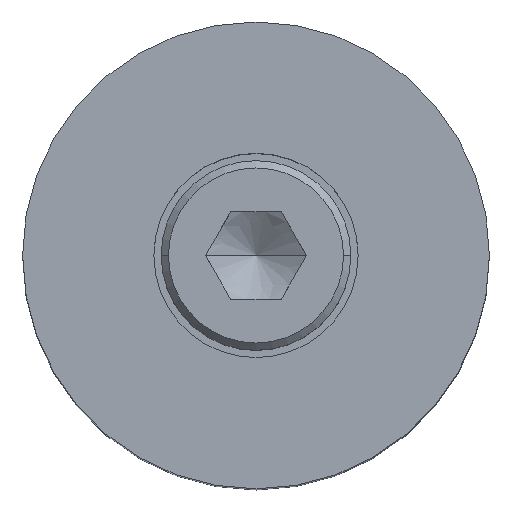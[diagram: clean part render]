
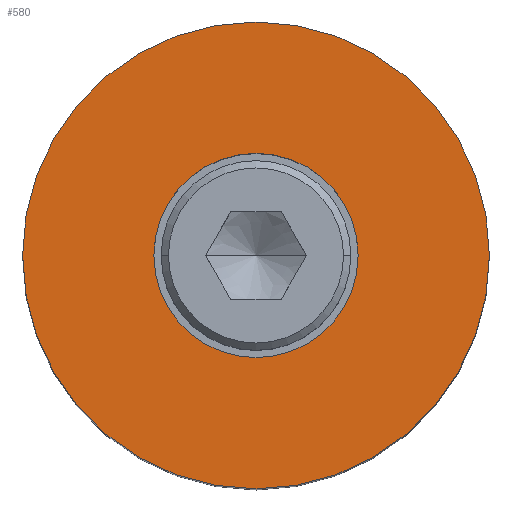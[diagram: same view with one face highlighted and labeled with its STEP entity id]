
A CAD part, top view. The second image highlights one B-rep face of the part: STEP entity #580.
In plain terms, the highlighted planar face has unit normal (0, 0, 1).
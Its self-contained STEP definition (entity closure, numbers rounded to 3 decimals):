
#35 = EDGE_CURVE ( 'NONE', #512, #176, #762, .T. ) ;
#48 = DIRECTION ( 'NONE',  ( 1., 0., 0. ) ) ;
#63 = DIRECTION ( 'NONE',  ( 0., 0., 1. ) ) ;
#153 = DIRECTION ( 'NONE',  ( 1., 0., 0. ) ) ;
#176 = VERTEX_POINT ( 'NONE', #599 ) ;
#223 = DIRECTION ( 'NONE',  ( 0., 0., 1. ) ) ;
#261 = FACE_BOUND ( 'NONE', #522, .T. ) ;
#272 = CIRCLE ( 'NONE', #504, 7. ) ;
#285 = DIRECTION ( 'NONE',  ( 1., 0., 0. ) ) ;
#296 = CARTESIAN_POINT ( 'NONE',  ( 0., 0., 45. ) ) ;
#317 = DIRECTION ( 'NONE',  ( 0., 0., 1. ) ) ;
#326 = ORIENTED_EDGE ( 'NONE', *, *, #478, .T. ) ;
#358 = EDGE_CURVE ( 'NONE', #176, #512, #581, .T. ) ;
#379 = DIRECTION ( 'NONE',  ( 0., 0., -1. ) ) ;
#387 = CARTESIAN_POINT ( 'NONE',  ( -16., 0., 45. ) ) ;
#452 = ORIENTED_EDGE ( 'NONE', *, *, #1066, .T. ) ;
#462 = CARTESIAN_POINT ( 'NONE',  ( 7., 0., 45. ) ) ;
#468 = CARTESIAN_POINT ( 'NONE',  ( 0., 0., 45. ) ) ;
#478 = EDGE_CURVE ( 'NONE', #1091, #1087, #272, .T. ) ;
#504 = AXIS2_PLACEMENT_3D ( 'NONE', #579, #769, #48 ) ;
#512 = VERTEX_POINT ( 'NONE', #387 ) ;
#522 = EDGE_LOOP ( 'NONE', ( #326, #452 ) ) ;
#569 = AXIS2_PLACEMENT_3D ( 'NONE', #296, #379, #713 ) ;
#579 = CARTESIAN_POINT ( 'NONE',  ( 0., 0., 45. ) ) ;
#580 = ADVANCED_FACE ( 'NONE', ( #678, #261 ), #1060, .T. ) ;
#581 = CIRCLE ( 'NONE', #753, 16. ) ;
#587 = AXIS2_PLACEMENT_3D ( 'NONE', #721, #223, #892 ) ;
#599 = CARTESIAN_POINT ( 'NONE',  ( 16., 0., 45. ) ) ;
#678 = FACE_OUTER_BOUND ( 'NONE', #1021, .T. ) ;
#710 = CARTESIAN_POINT ( 'NONE',  ( -7., 0., 45. ) ) ;
#713 = DIRECTION ( 'NONE',  ( 1., 0., 0. ) ) ;
#721 = CARTESIAN_POINT ( 'NONE',  ( -36.8, -33.255, 45. ) ) ;
#753 = AXIS2_PLACEMENT_3D ( 'NONE', #468, #63, #285 ) ;
#762 = CIRCLE ( 'NONE', #1026, 16. ) ;
#769 = DIRECTION ( 'NONE',  ( 0., 0., -1. ) ) ;
#813 = CARTESIAN_POINT ( 'NONE',  ( 0., 0., 45. ) ) ;
#825 = ORIENTED_EDGE ( 'NONE', *, *, #35, .T. ) ;
#847 = CIRCLE ( 'NONE', #569, 7. ) ;
#892 = DIRECTION ( 'NONE',  ( 1., 0., 0. ) ) ;
#953 = ORIENTED_EDGE ( 'NONE', *, *, #358, .T. ) ;
#1021 = EDGE_LOOP ( 'NONE', ( #953, #825 ) ) ;
#1026 = AXIS2_PLACEMENT_3D ( 'NONE', #813, #317, #153 ) ;
#1060 = PLANE ( 'NONE',  #587 ) ;
#1066 = EDGE_CURVE ( 'NONE', #1087, #1091, #847, .T. ) ;
#1087 = VERTEX_POINT ( 'NONE', #710 ) ;
#1091 = VERTEX_POINT ( 'NONE', #462 ) ;
